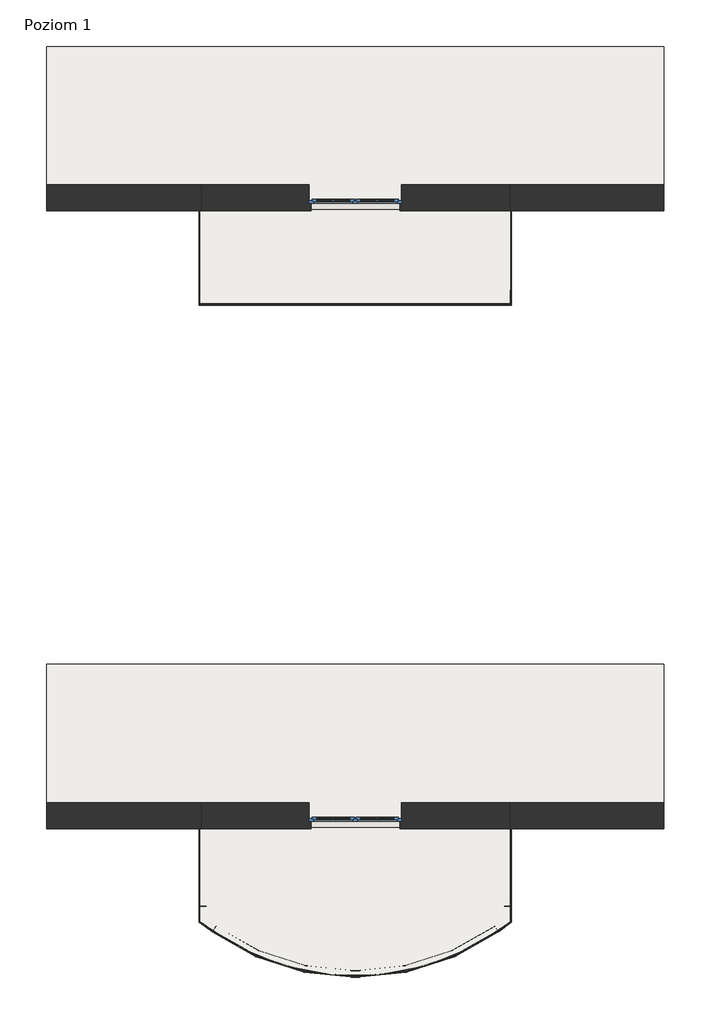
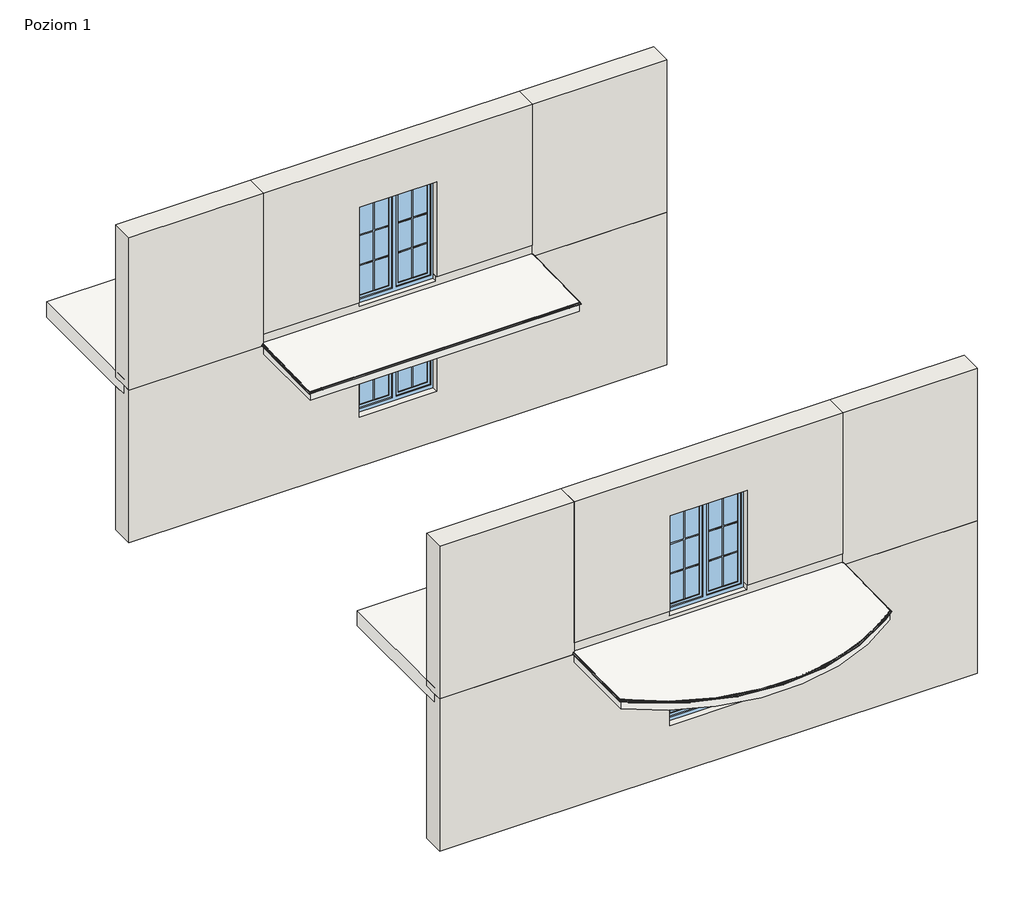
# One storey, part 1 of 4: 10 proxies, 10 walls, 6 slabs, 4 windows.
"""IFC4 building model written with IfcOpenShell, lengths in millimetres."""

from ifc_helpers import new_model, si_unit, frame, origin, place, context, project, spatial, circle_curve, ellipse_curve, faceted_brep, transform, mapped, element, save
from ifc_brep_helpers import plane_surface, cylinder_surface, advanced_brep
from components import generic_models_88e95f6f, generic_models_93ca83c9, k30_af906b5c, k30_aa9466e5, k30_8c66ed92, k30_8aa74587, k30_a010585c, k30_89902d99, window_150x150_51b7f79a, window_150x200_12b14935

model = new_model("IFC4")

# Units and contexts
model_context = context("Model", 3, world=origin())
ifc_project = project(units=[si_unit("LENGTHUNIT", "METRE", prefix="MILLI")], contexts=[model_context])

# Site, building, storey
site = spatial("IfcSite", under=ifc_project)
building = spatial("IfcBuilding", under=site)
storey = spatial("IfcBuildingStorey", under=building, Name="Poziom 1", Elevation=0.0)

# Proxies
placement = place(None, origin())
generic_models_shape = generic_models_88e95f6f(model_context)
element("IfcBuildingElementProxy", 1, Name="Odbojnik przyścienny K30 : Odbojnik przyścienny K30", ObjectType="Odbojnik przyścienny K30 : Odbojnik przyścienny K30", at=placement, inside=storey, context=model_context, shape_type="MappedRepresentation", body=[
    mapped(generic_models_shape, transform((-107871.381667, 44779.4737056, -102.0701275), x_axis=(0.0, -0.9999253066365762, -0.012222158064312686), y_axis=(1.0, 0.0, 0.0), z_axis=(0.0, -0.01222215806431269, 0.9999253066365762))),
])
element("IfcBuildingElementProxy", 2, Name="Odbojnik przyścienny K30 : Odbojnik przyścienny K30", ObjectType="Odbojnik przyścienny K30 : Odbojnik przyścienny K30", at=placement, inside=storey, context=model_context, shape_type="MappedRepresentation", body=[
    mapped(generic_models_shape, transform((-107871.4787519, 54780.2706498, -102.8920951), x_axis=(0.0, -0.9998044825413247, -0.019773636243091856), y_axis=(1.0000000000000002, 0.0, 0.0), z_axis=(0.0, -0.01977363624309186, 0.9998044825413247))),
])
generic_models_2_shape = generic_models_93ca83c9(model_context)
element("IfcBuildingElementProxy", 3, Name="Odbojnik przyścienny K30 : Odbojnik przyścienny K30", ObjectType="Odbojnik przyścienny K30 : Odbojnik przyścienny K30", at=placement, inside=storey, context=model_context, shape_type="MappedRepresentation", body=[
    mapped(generic_models_2_shape, transform((-112898.2079317, 54781.1897285, -102.873918), x_axis=(0.0, -0.9998044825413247, -0.019773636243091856), y_axis=(1.0000000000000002, 0.0, 0.0), z_axis=(0.0, -0.01977363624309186, 0.9998044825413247))),
])
element("IfcBuildingElementProxy", 4, Name="Odbojnik przyścienny K30 : Odbojnik przyścienny K30", ObjectType="Odbojnik przyścienny K30 : Odbojnik przyścienny K30", at=placement, inside=storey, context=model_context, shape_type="MappedRepresentation", body=[
    mapped(generic_models_2_shape, transform((-112898.2079317, 44779.4905862, -102.0699212), x_axis=(0.0, -0.9999253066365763, -0.012222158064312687), y_axis=(1.0, 0.0, 0.0), z_axis=(0.0, -0.01222215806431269, 0.9999253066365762))),
])
k30_shape = k30_af906b5c(model_context)
element("IfcBuildingElementProxy", 5, Name="K30 Profil okapowy łukowy : K30", ObjectType="K30 Profil okapowy łukowy : K30", at=placement, inside=storey, context=model_context, shape_type="MappedRepresentation", body=[
    mapped(k30_shape, transform((-112894.8433418, 43276.5592079, -96.7210385), x_axis=(1.0, 0.0, 0.0), y_axis=(0.0, 0.9999253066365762, 0.01222215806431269), z_axis=(0.0, -0.01222215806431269, 0.9999253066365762))),
])
k30_2_shape = k30_aa9466e5(model_context)
element("IfcBuildingElementProxy", 6, Name="K30 Profil okapowy prosty : K30", ObjectType="K30 Profil okapowy prosty : K30", at=placement, inside=storey, context=model_context, shape_type="MappedRepresentation", body=[
    mapped(k30_2_shape, transform((-112894.8433418, 53271.9866735, -109.0), x_axis=(1.0, 0.0, 0.0), y_axis=(0.0, 0.9998044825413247, 0.01977363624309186), z_axis=(0.0, -0.01977363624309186, 0.9998044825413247))),
])
k30_3_shape = k30_8c66ed92(model_context)
element("IfcBuildingElementProxy", 7, Name="K30 Profil okapowy prosty : K30", ObjectType="K30 Profil okapowy prosty : K30", at=placement, inside=storey, context=model_context, shape_type="MappedRepresentation", body=[
    mapped(k30_3_shape, transform((-107874.8433418, 53491.9436597, -104.6498), x_axis=(0.0, 0.9998044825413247, 0.019773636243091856), y_axis=(-1.0000000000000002, 0.0, 0.0), z_axis=(0.0, -0.01977363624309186, 0.9998044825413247))),
])
k30_4_shape = k30_8aa74587(model_context)
element("IfcBuildingElementProxy", 8, Name="K30 Profil okapowy prosty : K30", ObjectType="K30 Profil okapowy prosty : K30", at=placement, inside=storey, context=model_context, shape_type="MappedRepresentation", body=[
    mapped(k30_4_shape, transform((-112894.8433418, 53491.9436597, -104.6498), x_axis=(0.0, 0.9998044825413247, 0.019773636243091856), y_axis=(-1.0000000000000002, 0.0, 0.0), z_axis=(0.0, -0.01977363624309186, 0.9998044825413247))),
])
k30_5_shape = k30_a010585c(model_context)
element("IfcBuildingElementProxy", 9, Name="K30 Profil okapowy prosty : K30", ObjectType="K30 Profil okapowy prosty : K30", at=placement, inside=storey, context=model_context, shape_type="MappedRepresentation", body=[
    mapped(k30_5_shape, transform((-107874.7462569, 43526.5405157, -93.6654993), x_axis=(0.0, 0.9999253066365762, 0.012222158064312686), y_axis=(-1.0, 0.0, 0.0), z_axis=(0.0, -0.01222215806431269, 0.9999253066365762))),
])
k30_6_shape = k30_89902d99(model_context)
element("IfcBuildingElementProxy", 10, Name="K30 Profil okapowy prosty : K30", ObjectType="K30 Profil okapowy prosty : K30", at=placement, inside=storey, context=model_context, shape_type="MappedRepresentation", body=[
    mapped(k30_6_shape, transform((-112894.8433418, 43526.4042175, -93.6671652), x_axis=(0.0, 0.9999253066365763, 0.012222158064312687), y_axis=(-1.0, 0.0, 0.0), z_axis=(0.0, -0.01222215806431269, 0.9999253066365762))),
])

# Slabs
element("IfcSlab", 11, ObjectType="Balkon - wykończenie - posadzka ceramiczna", at=placement, inside=storey, context=model_context, shape_type="Brep", body=[
    faceted_brep([(-112894.8433418, 53271.9866735, -125.0), (-112894.8433418, 53271.9866735, -109.0), (-112894.8433418, 54889.9866735, -77.0), (-112894.8433418, 54889.9866735, -93.0), (-112884.8433418, 54889.9866735, -77.0), (-107884.8433418, 54889.9866735, -77.0), (-107874.8433418, 54889.9866735, -77.0), (-107874.8433418, 54889.9866735, -93.0), (-107874.8433418, 53271.9866735, -125.0), (-107874.8433418, 53271.9866735, -109.0)], [[[0, 1, 2, 3]], [[3, 2, 4, 5, 6, 7]], [[8, 9, 1, 0]], [[7, 6, 9, 8]], [[9, 6, 5, 4, 2, 1]], [[8, 0, 3, 7]]]),
])
element("IfcSlab", 12, ObjectType="Balkon - wykończenie - posadzka ceramiczna", at=placement, inside=storey, context=model_context, shape_type="AdvancedBrep", body=[
    advanced_brep(
    [(-112894.8433418, 44889.9866735, -77.0), (-112894.8433418, 44889.9866735, -93.0), (-112894.8433418, 43276.5592079, -112.7210385), (-112894.8433418, 43276.5592079, -96.7210385), (-112884.8433418, 44889.9866735, -77.0), (-107884.8433418, 44889.9866735, -77.0), (-107874.8433418, 44889.9866735, -77.0), (-107874.8433418, 44889.9866735, -93.0), (-107874.8433418, 43276.5592079, -96.7210385), (-107874.8433418, 43276.5592079, -112.7210385)],
    [
        (0, 1),
        (1, 2),
        (2, 3),
        (3, 0),
        (0, 4),
        (4, 5),
        (5, 6),
        (6, 7),
        (7, 1),
        (6, 8),
        (8, 9),
        (9, 7),
        (3, 8, ellipse_curve(frame((-110384.8433418, 46403.8583621, -58.4958388), z_axis=(0.0, -0.01222215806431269, 0.9999253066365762), x_axis=(0.0, -0.9999253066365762, -0.012222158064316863)), 4010.2995428, 4010.0)),
        (9, 2, ellipse_curve(frame((-110384.8433418, 46403.8583621, -74.4958388), z_axis=(0.0, 0.01222215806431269, -0.9999253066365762), x_axis=(0.0, -0.9999253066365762, -0.012222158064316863)), 4010.2995428, 4010.0)),
    ],
    [
        plane_surface(frame((-112894.8433418, 42271.9866735, -125.0), z_axis=(-1.0, 0.0, 0.0), x_axis=(0.0, 0.0, 1.0))),
        plane_surface(frame((-112894.8433418, 44889.9866735, -125.0), z_axis=(0.0, 1.0, 0.0), x_axis=(0.0, 0.0, 1.0))),
        plane_surface(frame((-107874.8433418, 44889.9866735, -125.0), z_axis=(1.0, 0.0, 0.0), x_axis=(0.0, 0.0, 1.0))),
        plane_surface(frame((-110384.8433418, 43580.9866735, -93.0), z_axis=(0.0, -0.01222215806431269, 0.9999253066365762), x_axis=(0.0, 0.9999253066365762, 0.01222215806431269))),
        plane_surface(frame((-110384.8433418, 43580.9866735, -109.0), z_axis=(0.0, 0.01222215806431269, -0.9999253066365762), x_axis=(0.0, 0.9999253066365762, 0.01222215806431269))),
        cylinder_surface(frame((-110384.8433418, 46403.8583621, -429.8), z_axis=(0.0, 0.0, -1.0), x_axis=(1.0, 0.0, 0.0)), 4010.0),
    ],
    [
        (0, [[1, 2, 3, 4]]),
        (1, [[-1, 5, 6, 7, 8, 9]]),
        (2, [[-8, 10, 11, 12]]),
        (3, [[-7, -6, -5, -4, 13, -10]]),
        (4, [[-9, -12, 14, -2]]),
        (5, [[-3, -14, -11, -13]]),
    ],
),
])
element("IfcSlab", 13, ObjectType="Balkon - konstrukcja", at=placement, inside=storey, context=model_context, shape_type="Brep", body=[
    faceted_brep([(-112884.8433418, 53281.9866735, -285.0), (-112884.8433418, 54781.9866735, -285.0), (-112884.8433418, 54889.9866735, -285.0), (-107884.8433418, 54889.9866735, -285.0), (-107884.8433418, 54781.9866735, -285.0), (-107884.8433418, 53281.9866735, -285.0), (-112884.8433418, 53281.9866735, -125.0), (-112884.8433418, 54889.9866735, -93.0), (-112884.8433418, 54889.9866735, -125.0), (-107884.8433418, 54889.9866735, -93.0), (-107884.8433418, 54889.9866735, -125.0), (-107884.8433418, 53281.9866735, -125.0)], [[[0, 1, 2, 3, 4, 5]], [[2, 1, 0, 6, 7, 8]], [[3, 2, 8, 7, 9, 10]], [[0, 5, 11, 6]], [[5, 4, 3, 10, 9, 11]], [[11, 9, 7, 6]]]),
])
element("IfcSlab", 14, ObjectType="Balkon - konstrukcja", at=placement, inside=storey, context=model_context, shape_type="AdvancedBrep", body=[
    advanced_brep(
    [(-112884.8433418, 44889.9866735, -285.0), (-107884.8433418, 44889.9866735, -285.0), (-107884.8433418, 44781.9866735, -285.0), (-107884.8433418, 43281.9866735, -285.0), (-112884.8433418, 43281.9866735, -285.0), (-112884.8433418, 44781.9866735, -285.0), (-112884.8433418, 44889.9866735, -93.0), (-112884.8433418, 44889.9866735, -125.0), (-112884.8433418, 43281.9866735, -112.7300613), (-107884.8433418, 44889.9866735, -93.0), (-107884.8433418, 44889.9866735, -125.0), (-107884.8433418, 43281.9866735, -112.7300613)],
    [
        (0, 1),
        (1, 2),
        (2, 3),
        (3, 4, circle_curve(frame((-110384.8433418, 46404.4856727, -285.0), z_axis=(0.0, 0.0, -1.0), x_axis=(1.0, 0.0, 0.0)), 4000.0)),
        (4, 5),
        (5, 0),
        (6, 7),
        (7, 0),
        (4, 8),
        (8, 6),
        (6, 9),
        (9, 10),
        (10, 1),
        (9, 11),
        (11, 3),
        (8, 11, ellipse_curve(frame((-110384.8433418, 46404.4856727, -74.4171902), z_axis=(0.0, -0.012269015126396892, 0.9999247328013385), x_axis=(0.0, -0.9999247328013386, -0.012269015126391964)), 4000.3010915, 4000.0)),
    ],
    [
        plane_surface(frame((-112884.8433418, 44889.9866735, -285.0), z_axis=(0.0, 0.0, -1.0), x_axis=(0.0, 1.0, 0.0))),
        plane_surface(frame((-112884.8433418, 42281.9866735, -285.0), z_axis=(-1.0, 0.0, 0.0), x_axis=(0.0, 0.0, 1.0))),
        plane_surface(frame((-112884.8433418, 44889.9866735, -285.0), z_axis=(0.0, 1.0, 0.0), x_axis=(0.0, 0.0, 1.0))),
        plane_surface(frame((-107884.8433418, 44889.9866735, -285.0), z_axis=(1.0, 0.0, 0.0), x_axis=(0.0, 0.0, 1.0))),
        plane_surface(frame((-110384.8433418, 43585.9866735, -109.0), z_axis=(0.0, -0.012269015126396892, 0.9999247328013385), x_axis=(0.0, 0.9999247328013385, 0.012269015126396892))),
        cylinder_surface(frame((-110384.8433418, 46404.4856727, -589.8), z_axis=(0.0, 0.0, -1.0), x_axis=(1.0, 0.0, 0.0)), 4000.0),
    ],
    [
        (0, [[1, 2, 3, 4, 5, 6]]),
        (1, [[7, 8, -6, -5, 9, 10]]),
        (2, [[-1, -8, -7, 11, 12, 13]]),
        (3, [[-13, -12, 14, 15, -3, -2]]),
        (4, [[-11, -10, 16, -14]]),
        (5, [[-4, -15, -16, -9]]),
    ],
),
])
element("IfcSlab", 15, ObjectType="Strop", at=placement, inside=storey, context=model_context, shape_type="Brep", body=[
    faceted_brep([(-105384.8433418, 54936.9866735, -300.0), (-115384.8433418, 54936.9866735, -300.0), (-115384.8433418, 55201.9866735, -300.0), (-115384.8433418, 57436.9866735, -300.0), (-105384.8433418, 57436.9866735, -300.0), (-105384.8433418, 55201.9866735, -300.0), (-105384.8433418, 54936.9866735, 0.0), (-105384.8433418, 57436.9866735, 0.0), (-115384.8433418, 57436.9866735, 0.0), (-115384.8433418, 54936.9866735, 0.0), (-112884.8433418, 54936.9866735, 0.0), (-111134.8433418, 54936.9866735, 0.0), (-109634.8433418, 54936.9866735, 0.0), (-107884.8433418, 54936.9866735, 0.0), (-105384.8433418, 54936.9866735, -125.0), (-115384.8433418, 54936.9866735, -125.0)], [[[0, 1, 2, 3, 4, 5]], [[6, 7, 8, 9, 10, 11, 12, 13]], [[1, 0, 14, 6, 13, 12, 11, 10, 9, 15]], [[3, 2, 1, 15, 9, 8]], [[4, 3, 8, 7]], [[0, 5, 4, 7, 6, 14]]]),
])
element("IfcSlab", 16, ObjectType="Strop", at=placement, inside=storey, context=model_context, shape_type="Brep", body=[
    faceted_brep([(-105384.8433418, 44936.9866735, -300.0), (-115384.8433418, 44936.9866735, -300.0), (-115384.8433418, 45201.9866735, -300.0), (-115384.8433418, 47436.9866735, -300.0), (-105384.8433418, 47436.9866735, -300.0), (-105384.8433418, 45201.9866735, -300.0), (-105384.8433418, 44936.9866735, 0.0), (-105384.8433418, 47436.9866735, 0.0), (-115384.8433418, 47436.9866735, 0.0), (-115384.8433418, 44936.9866735, 0.0), (-112884.8433418, 44936.9866735, 0.0), (-111134.8433418, 44936.9866735, 0.0), (-109634.8433418, 44936.9866735, 0.0), (-107884.8433418, 44936.9866735, 0.0), (-105384.8433418, 44936.9866735, -125.0), (-115384.8433418, 44936.9866735, -125.0)], [[[0, 1, 2, 3, 4, 5]], [[6, 7, 8, 9, 10, 11, 12, 13]], [[1, 0, 14, 6, 13, 12, 11, 10, 9, 15]], [[3, 2, 1, 15, 9, 8]], [[4, 3, 8, 7]], [[0, 5, 4, 7, 6, 14]]]),
])

# Walls
element("IfcWall", 17, ObjectType="Porotherm P+W 25 + o15 + t", at=placement, inside=storey, context=model_context, shape_type="Brep", body=[
    faceted_brep([(-115384.8433418, 54781.9866735, -3125.0), (-105384.8433418, 54781.9866735, -3125.0), (-105384.8433418, 54781.9866735, -125.0), (-107884.8433418, 54781.9866735, -125.0), (-107884.8433418, 54781.9866735, -285.0), (-112884.8433418, 54781.9866735, -285.0), (-112884.8433418, 54781.9866735, -125.0), (-115384.8433418, 54781.9866735, -125.0), (-109664.8433418, 54781.9866735, -680.0), (-109664.8433418, 54781.9866735, -2150.0), (-111104.8433418, 54781.9866735, -2150.0), (-111104.8433418, 54781.9866735, -680.0), (-105384.8433418, 55201.9866735, -3125.0), (-115384.8433418, 55201.9866735, -3125.0), (-115384.8433418, 55201.9866735, -300.0), (-105384.8433418, 55201.9866735, -300.0), (-109634.8433418, 55201.9866735, -2150.0), (-109634.8433418, 55201.9866735, -650.0), (-111134.8433418, 55201.9866735, -650.0), (-111134.8433418, 55201.9866735, -2150.0), (-105384.8433418, 54936.9866735, -300.0), (-105384.8433418, 54936.9866735, -125.0), (-107884.8433418, 54936.9866735, -125.0), (-112884.8433418, 54936.9866735, -125.0), (-115384.8433418, 54936.9866735, -125.0), (-112884.8433418, 54889.9866735, -125.0), (-107884.8433418, 54889.9866735, -125.0), (-115384.8433418, 54936.9866735, -300.0), (-109634.8433418, 54901.9866735, -650.0), (-109634.8433418, 54901.9866735, -2150.0), (-109664.8433418, 54901.9866735, -680.0), (-109664.8433418, 54901.9866735, -2150.0), (-107884.8433418, 54889.9866735, -285.0), (-112884.8433418, 54889.9866735, -285.0), (-111134.8433418, 54901.9866735, -650.0), (-111134.8433418, 54901.9866735, -2150.0), (-111104.8433418, 54901.9866735, -2150.0), (-111104.8433418, 54901.9866735, -680.0)], [[[0, 1, 2, 3, 4, 5, 6, 7], [8, 9, 10, 11]], [[12, 13, 14, 15], [16, 17, 18, 19]], [[1, 0, 13, 12]], [[2, 1, 12, 15, 20, 21]], [[2, 21, 22, 23, 24, 7, 6, 25, 26, 3]], [[0, 7, 24, 27, 14, 13]], [[28, 17, 16, 29]], [[8, 30, 31, 9]], [[27, 20, 15, 14]], [[20, 27, 24, 23, 22, 21]], [[32, 33, 5, 4]], [[5, 33, 25, 6]], [[33, 32, 26, 25]], [[32, 4, 3, 26]], [[17, 28, 34, 18]], [[29, 16, 19, 35, 36, 10, 9, 31]], [[34, 28, 29, 31, 30, 37, 36, 35]], [[34, 35, 19, 18]], [[30, 8, 11, 37]], [[10, 36, 37, 11]]]),
])
element("IfcWall", 18, ObjectType="Porotherm P+W 25 + o15 + t", at=placement, inside=storey, context=model_context, shape_type="Brep", body=[
    faceted_brep([(-115384.8433418, 54781.9866735, -125.0), (-112884.8433418, 54781.9866735, -125.0), (-112884.8433418, 54781.9866735, 100.0), (-112884.8433418, 54781.9866735, 2875.0), (-115384.8433418, 54781.9866735, 2875.0), (-115384.8433418, 55201.9866735, -125.0), (-115384.8433418, 55201.9866735, 2875.0), (-112884.8433418, 55201.9866735, 2875.0), (-112884.8433418, 55201.9866735, 100.0), (-112884.8433418, 55201.9866735, 0.0), (-112884.8433418, 55201.9866735, -125.0), (-115384.8433418, 54936.9866735, -125.0), (-112884.8433418, 54936.9866735, -125.0), (-112884.8433418, 54889.9866735, -125.0)], [[[0, 1, 2, 3, 4]], [[5, 6, 7, 8, 9, 10]], [[1, 0, 11, 5, 10, 12, 13]], [[4, 3, 7, 6]], [[0, 4, 6, 5, 11]], [[1, 13, 12, 10, 9, 8, 7, 3, 2]]]),
])
element("IfcWall", 19, ObjectType="Porotherm P+W 25 + o15 + t", at=placement, inside=storey, context=model_context, shape_type="Brep", body=[
    faceted_brep([(-107884.8433418, 54781.9866735, 2875.0), (-107884.8433418, 54781.9866735, 100.0), (-107884.8433418, 54781.9866735, -125.0), (-105384.8433418, 54781.9866735, -125.0), (-105384.8433418, 54781.9866735, 2875.0), (-107884.8433418, 55201.9866735, -125.0), (-107884.8433418, 55201.9866735, 0.0), (-107884.8433418, 55201.9866735, 100.0), (-107884.8433418, 55201.9866735, 2875.0), (-105384.8433418, 55201.9866735, 2875.0), (-105384.8433418, 55201.9866735, -125.0), (-107884.8433418, 54889.9866735, -125.0), (-107884.8433418, 54936.9866735, -125.0), (-105384.8433418, 54936.9866735, -125.0)], [[[0, 1, 2, 3, 4]], [[5, 6, 7, 8, 9, 10]], [[3, 2, 11, 12, 5, 10, 13]], [[4, 3, 13, 10, 9]], [[0, 4, 9, 8]], [[0, 8, 7, 6, 5, 12, 11, 2, 1]]]),
])
element("IfcWall", 20, ObjectType="Porotherm P+W 25 + o12 + pł ceramiczne", at=placement, inside=storey, context=model_context, shape_type="Brep", body=[
    faceted_brep([(-107884.8433418, 54803.9866735, -78.7008653), (-107884.8433418, 54803.9866735, 100.0), (-109664.8433418, 54803.9866735, 100.0), (-109664.8433418, 54803.9866735, 0.0), (-111104.8433418, 54803.9866735, 0.0), (-111104.8433418, 54803.9866735, 100.0), (-112884.8433418, 54803.9866735, 100.0), (-112884.8433418, 54803.9866735, -78.7008653), (-112884.8433418, 55201.9866735, 0.0), (-112884.8433418, 55201.9866735, 100.0), (-111134.8433418, 55201.9866735, 100.0), (-111134.8433418, 55201.9866735, 0.0), (-107884.8433418, 55201.9866735, 100.0), (-107884.8433418, 55201.9866735, 0.0), (-109634.8433418, 55201.9866735, 0.0), (-109634.8433418, 55201.9866735, 100.0), (-112884.8433418, 54936.9866735, -125.0), (-107884.8433418, 54936.9866735, -125.0), (-107884.8433418, 54889.9866735, -125.0), (-112884.8433418, 54889.9866735, -125.0), (-107884.8433418, 54889.9866735, -77.0), (-107884.8433418, 54889.9866735, -93.0), (-107884.8433418, 54936.9866735, 0.0), (-109634.8433418, 54901.9866735, 100.0), (-109664.8433418, 54901.9866735, 100.0), (-111104.8433418, 54901.9866735, 100.0), (-111134.8433418, 54901.9866735, 100.0), (-112884.8433418, 54936.9866735, 0.0), (-112884.8433418, 54889.9866735, -93.0), (-112884.8433418, 54889.9866735, -77.0), (-111134.8433418, 54936.9866735, 0.0), (-109634.8433418, 54936.9866735, 0.0), (-111134.8433418, 54901.9866735, 0.0), (-111104.8433418, 54901.9866735, 0.0), (-109664.8433418, 54901.9866735, 0.0), (-109634.8433418, 54901.9866735, 0.0)], [[[0, 1, 2, 3, 4, 5, 6, 7]], [[8, 9, 10, 11]], [[12, 13, 14, 15]], [[16, 17, 18, 19]], [[12, 1, 0, 20, 21, 18, 17, 22, 13]], [[1, 12, 15, 23, 24, 2]], [[9, 6, 5, 25, 26, 10]], [[6, 9, 8, 27, 16, 19, 28, 29, 7]], [[8, 11, 30, 27]], [[13, 22, 31, 14]], [[17, 16, 27, 30, 31, 22]], [[20, 29, 28, 19, 18, 21]], [[29, 20, 0, 7]], [[32, 33, 4, 3, 34, 35, 31, 30]], [[33, 32, 26, 25]], [[35, 34, 24, 23]], [[35, 23, 15, 14, 31]], [[26, 32, 30, 11, 10]], [[34, 3, 2, 24]], [[4, 33, 25, 5]]]),
])
element("IfcWall", 21, ObjectType="Porotherm P+W 25 + o15 + t", at=placement, inside=storey, context=model_context, shape_type="Brep", body=[
    faceted_brep([(-107884.8433418, 54781.9866735, 100.0), (-107884.8433418, 54781.9866735, 2875.0), (-112884.8433418, 54781.9866735, 2875.0), (-112884.8433418, 54781.9866735, 100.0), (-111104.8433418, 54781.9866735, 100.0), (-111104.8433418, 54781.9866735, 1970.0), (-109664.8433418, 54781.9866735, 1970.0), (-109664.8433418, 54781.9866735, 100.0), (-107884.8433418, 55201.9866735, 2875.0), (-107884.8433418, 55201.9866735, 100.0), (-109634.8433418, 55201.9866735, 100.0), (-109634.8433418, 55201.9866735, 2000.0), (-111134.8433418, 55201.9866735, 2000.0), (-111134.8433418, 55201.9866735, 100.0), (-112884.8433418, 55201.9866735, 100.0), (-112884.8433418, 55201.9866735, 2875.0), (-112884.8433418, 54803.9866735, 100.0), (-111134.8433418, 54901.9866735, 100.0), (-111104.8433418, 54901.9866735, 100.0), (-111104.8433418, 54803.9866735, 100.0), (-107884.8433418, 54803.9866735, 100.0), (-109664.8433418, 54803.9866735, 100.0), (-109664.8433418, 54901.9866735, 100.0), (-109634.8433418, 54901.9866735, 100.0), (-109634.8433418, 54901.9866735, 2000.0), (-109664.8433418, 54901.9866735, 1970.0), (-111134.8433418, 54901.9866735, 2000.0), (-111104.8433418, 54901.9866735, 1970.0)], [[[0, 1, 2, 3, 4, 5, 6, 7]], [[8, 9, 10, 11, 12, 13, 14, 15]], [[3, 16, 14, 13, 17, 18, 19, 4]], [[9, 20, 0, 7, 21, 22, 23, 10]], [[1, 0, 20, 9, 8]], [[2, 1, 8, 15]], [[3, 2, 15, 14, 16]], [[24, 11, 10, 23]], [[6, 25, 22, 21, 7]], [[26, 12, 11, 24]], [[26, 24, 23, 22, 25, 27, 18, 17]], [[12, 26, 17, 13]], [[27, 25, 6, 5]], [[27, 5, 4, 19, 18]]]),
])
element("IfcWall", 22, ObjectType="Porotherm P+W 25 + o15 + t", at=placement, inside=storey, context=model_context, shape_type="Brep", body=[
    faceted_brep([(-115384.8433418, 44781.9866735, -3125.0), (-105384.8433418, 44781.9866735, -3125.0), (-105384.8433418, 44781.9866735, -125.0), (-107884.8433418, 44781.9866735, -125.0), (-107884.8433418, 44781.9866735, -285.0), (-112884.8433418, 44781.9866735, -285.0), (-112884.8433418, 44781.9866735, -125.0), (-115384.8433418, 44781.9866735, -125.0), (-109664.8433418, 44781.9866735, -680.0), (-109664.8433418, 44781.9866735, -2150.0), (-111104.8433418, 44781.9866735, -2150.0), (-111104.8433418, 44781.9866735, -680.0), (-105384.8433418, 45201.9866735, -3125.0), (-115384.8433418, 45201.9866735, -3125.0), (-115384.8433418, 45201.9866735, -300.0), (-105384.8433418, 45201.9866735, -300.0), (-109634.8433418, 45201.9866735, -2150.0), (-109634.8433418, 45201.9866735, -650.0), (-111134.8433418, 45201.9866735, -650.0), (-111134.8433418, 45201.9866735, -2150.0), (-105384.8433418, 44936.9866735, -300.0), (-105384.8433418, 44936.9866735, -125.0), (-107884.8433418, 44936.9866735, -125.0), (-112884.8433418, 44936.9866735, -125.0), (-115384.8433418, 44936.9866735, -125.0), (-112884.8433418, 44889.9866735, -125.0), (-107884.8433418, 44889.9866735, -125.0), (-115384.8433418, 44936.9866735, -300.0), (-109634.8433418, 44901.9866735, -650.0), (-109634.8433418, 44901.9866735, -2150.0), (-109664.8433418, 44901.9866735, -680.0), (-109664.8433418, 44901.9866735, -2150.0), (-107884.8433418, 44889.9866735, -285.0), (-112884.8433418, 44889.9866735, -285.0), (-111134.8433418, 44901.9866735, -650.0), (-111134.8433418, 44901.9866735, -2150.0), (-111104.8433418, 44901.9866735, -2150.0), (-111104.8433418, 44901.9866735, -680.0)], [[[0, 1, 2, 3, 4, 5, 6, 7], [8, 9, 10, 11]], [[12, 13, 14, 15], [16, 17, 18, 19]], [[1, 0, 13, 12]], [[2, 1, 12, 15, 20, 21]], [[2, 21, 22, 23, 24, 7, 6, 25, 26, 3]], [[0, 7, 24, 27, 14, 13]], [[28, 17, 16, 29]], [[8, 30, 31, 9]], [[27, 20, 15, 14]], [[20, 27, 24, 23, 22, 21]], [[32, 33, 5, 4]], [[5, 33, 25, 6]], [[33, 32, 26, 25]], [[32, 4, 3, 26]], [[17, 28, 34, 18]], [[29, 16, 19, 35, 36, 10, 9, 31]], [[34, 28, 29, 31, 30, 37, 36, 35]], [[34, 35, 19, 18]], [[30, 8, 11, 37]], [[10, 36, 37, 11]]]),
])
element("IfcWall", 23, ObjectType="Porotherm P+W 25 + o15 + t", at=placement, inside=storey, context=model_context, shape_type="Brep", body=[
    faceted_brep([(-115384.8433418, 44781.9866735, -125.0), (-112884.8433418, 44781.9866735, -125.0), (-112884.8433418, 44781.9866735, 100.0), (-112884.8433418, 44781.9866735, 2875.0), (-115384.8433418, 44781.9866735, 2875.0), (-115384.8433418, 45201.9866735, -125.0), (-115384.8433418, 45201.9866735, 2875.0), (-112884.8433418, 45201.9866735, 2875.0), (-112884.8433418, 45201.9866735, 100.0), (-112884.8433418, 45201.9866735, 0.0), (-112884.8433418, 45201.9866735, -125.0), (-115384.8433418, 44936.9866735, -125.0), (-112884.8433418, 44936.9866735, -125.0), (-112884.8433418, 44889.9866735, -125.0)], [[[0, 1, 2, 3, 4]], [[5, 6, 7, 8, 9, 10]], [[1, 0, 11, 5, 10, 12, 13]], [[4, 3, 7, 6]], [[0, 4, 6, 5, 11]], [[1, 13, 12, 10, 9, 8, 7, 3, 2]]]),
])
element("IfcWall", 24, ObjectType="Porotherm P+W 25 + o15 + t", at=placement, inside=storey, context=model_context, shape_type="Brep", body=[
    faceted_brep([(-107884.8433418, 44781.9866735, 2875.0), (-107884.8433418, 44781.9866735, 100.0), (-107884.8433418, 44781.9866735, -125.0), (-105384.8433418, 44781.9866735, -125.0), (-105384.8433418, 44781.9866735, 2875.0), (-107884.8433418, 45201.9866735, -125.0), (-107884.8433418, 45201.9866735, 0.0), (-107884.8433418, 45201.9866735, 100.0), (-107884.8433418, 45201.9866735, 2875.0), (-105384.8433418, 45201.9866735, 2875.0), (-105384.8433418, 45201.9866735, -125.0), (-107884.8433418, 44889.9866735, -125.0), (-107884.8433418, 44936.9866735, -125.0), (-105384.8433418, 44936.9866735, -125.0)], [[[0, 1, 2, 3, 4]], [[5, 6, 7, 8, 9, 10]], [[3, 2, 11, 12, 5, 10, 13]], [[4, 3, 13, 10, 9]], [[0, 4, 9, 8]], [[0, 8, 7, 6, 5, 12, 11, 2, 1]]]),
])
element("IfcWall", 25, ObjectType="Porotherm P+W 25 + o12 + pł ceramiczne", at=placement, inside=storey, context=model_context, shape_type="Brep", body=[
    faceted_brep([(-107884.8433418, 44803.9866735, -78.0511841), (-107884.8433418, 44803.9866735, 100.0), (-109664.8433418, 44803.9866735, 100.0), (-109664.8433418, 44803.9866735, 0.0), (-111104.8433418, 44803.9866735, 0.0), (-111104.8433418, 44803.9866735, 100.0), (-112884.8433418, 44803.9866735, 100.0), (-112884.8433418, 44803.9866735, -78.0511841), (-107884.8433418, 45201.9866735, 100.0), (-107884.8433418, 45201.9866735, 0.0), (-109634.8433418, 45201.9866735, 0.0), (-109634.8433418, 45201.9866735, 100.0), (-112884.8433418, 45201.9866735, 0.0), (-112884.8433418, 45201.9866735, 100.0), (-111134.8433418, 45201.9866735, 100.0), (-111134.8433418, 45201.9866735, 0.0), (-112884.8433418, 44936.9866735, -125.0), (-107884.8433418, 44936.9866735, -125.0), (-107884.8433418, 44889.9866735, -125.0), (-112884.8433418, 44889.9866735, -125.0), (-107884.8433418, 44889.9866735, -77.0), (-107884.8433418, 44889.9866735, -93.0), (-107884.8433418, 44936.9866735, 0.0), (-109634.8433418, 44901.9866735, 100.0), (-109664.8433418, 44901.9866735, 100.0), (-111104.8433418, 44901.9866735, 100.0), (-111134.8433418, 44901.9866735, 100.0), (-112884.8433418, 44936.9866735, 0.0), (-112884.8433418, 44889.9866735, -93.0), (-112884.8433418, 44889.9866735, -77.0), (-111134.8433418, 44936.9866735, 0.0), (-109634.8433418, 44936.9866735, 0.0), (-111134.8433418, 44901.9866735, 0.0), (-111104.8433418, 44901.9866735, 0.0), (-109664.8433418, 44901.9866735, 0.0), (-109634.8433418, 44901.9866735, 0.0)], [[[0, 1, 2, 3, 4, 5, 6, 7]], [[8, 9, 10, 11]], [[12, 13, 14, 15]], [[16, 17, 18, 19]], [[8, 1, 0, 20, 21, 18, 17, 22, 9]], [[1, 8, 11, 23, 24, 2]], [[13, 6, 5, 25, 26, 14]], [[6, 13, 12, 27, 16, 19, 28, 29, 7]], [[12, 15, 30, 27]], [[9, 22, 31, 10]], [[17, 16, 27, 30, 31, 22]], [[20, 29, 28, 19, 18, 21]], [[29, 20, 0, 7]], [[32, 33, 4, 3, 34, 35, 31, 30]], [[33, 32, 26, 25]], [[35, 34, 24, 23]], [[35, 23, 11, 10, 31]], [[26, 32, 30, 15, 14]], [[34, 3, 2, 24]], [[4, 33, 25, 5]]]),
])
element("IfcWall", 26, ObjectType="Porotherm P+W 25 + o15 + t", at=placement, inside=storey, context=model_context, shape_type="Brep", body=[
    faceted_brep([(-107884.8433418, 44781.9866735, 100.0), (-107884.8433418, 44781.9866735, 2875.0), (-112884.8433418, 44781.9866735, 2875.0), (-112884.8433418, 44781.9866735, 100.0), (-111104.8433418, 44781.9866735, 100.0), (-111104.8433418, 44781.9866735, 1970.0), (-109664.8433418, 44781.9866735, 1970.0), (-109664.8433418, 44781.9866735, 100.0), (-107884.8433418, 45201.9866735, 2875.0), (-107884.8433418, 45201.9866735, 100.0), (-109634.8433418, 45201.9866735, 100.0), (-109634.8433418, 45201.9866735, 2000.0), (-111134.8433418, 45201.9866735, 2000.0), (-111134.8433418, 45201.9866735, 100.0), (-112884.8433418, 45201.9866735, 100.0), (-112884.8433418, 45201.9866735, 2875.0), (-112884.8433418, 44803.9866735, 100.0), (-111134.8433418, 44901.9866735, 100.0), (-111104.8433418, 44901.9866735, 100.0), (-111104.8433418, 44803.9866735, 100.0), (-107884.8433418, 44803.9866735, 100.0), (-109664.8433418, 44803.9866735, 100.0), (-109664.8433418, 44901.9866735, 100.0), (-109634.8433418, 44901.9866735, 100.0), (-109634.8433418, 44901.9866735, 2000.0), (-109664.8433418, 44901.9866735, 1970.0), (-111134.8433418, 44901.9866735, 2000.0), (-111104.8433418, 44901.9866735, 1970.0)], [[[0, 1, 2, 3, 4, 5, 6, 7]], [[8, 9, 10, 11, 12, 13, 14, 15]], [[3, 16, 14, 13, 17, 18, 19, 4]], [[9, 20, 0, 7, 21, 22, 23, 10]], [[1, 0, 20, 9, 8]], [[2, 1, 8, 15]], [[3, 2, 15, 14, 16]], [[24, 11, 10, 23]], [[6, 25, 22, 21, 7]], [[26, 12, 11, 24]], [[26, 24, 23, 22, 25, 27, 18, 17]], [[12, 26, 17, 13]], [[27, 25, 6, 5]], [[27, 5, 4, 19, 18]]]),
])

# Windows
window_150x150_shape = window_150x150_51b7f79a(model_context)
element("IfcWindow", 27, ObjectType="OKNO_2X_W_SZ : 150x150", at=placement, inside=storey, context=model_context, shape_type="MappedRepresentation", body=[
    mapped(window_150x150_shape, transform((-110384.8433418, 54991.9866735, -3000.0), x_axis=(-1.0, 0.0, 0.0), y_axis=(0.0, -1.0, 0.0), z_axis=(0.0, 0.0, 1.0))),
])
element("IfcWindow", 28, ObjectType="OKNO_2X_W_SZ : 150x150", at=placement, inside=storey, context=model_context, shape_type="MappedRepresentation", body=[
    mapped(window_150x150_shape, transform((-110384.8433418, 44991.9866735, -3000.0), x_axis=(-1.0, 0.0, 0.0), y_axis=(0.0, -1.0, 0.0), z_axis=(0.0, 0.0, 1.0))),
])
window_150x200_shape = window_150x200_12b14935(model_context)
element("IfcWindow", 29, ObjectType="OKNO_2X_W_SZ : 150x200", at=placement, inside=storey, context=model_context, shape_type="MappedRepresentation", body=[
    mapped(window_150x200_shape, transform((-110384.8433418, 54991.9866735, -850.0), x_axis=(-1.0, 0.0, 0.0), y_axis=(0.0, -1.0, 0.0), z_axis=(0.0, 0.0, 1.0))),
])
element("IfcWindow", 30, ObjectType="OKNO_2X_W_SZ : 150x200", at=placement, inside=storey, context=model_context, shape_type="MappedRepresentation", body=[
    mapped(window_150x200_shape, transform((-110384.8433418, 44991.9866735, -850.0), x_axis=(-1.0, 0.0, 0.0), y_axis=(0.0, -1.0, 0.0), z_axis=(0.0, 0.0, 1.0))),
])

save(model, "model.ifc")
